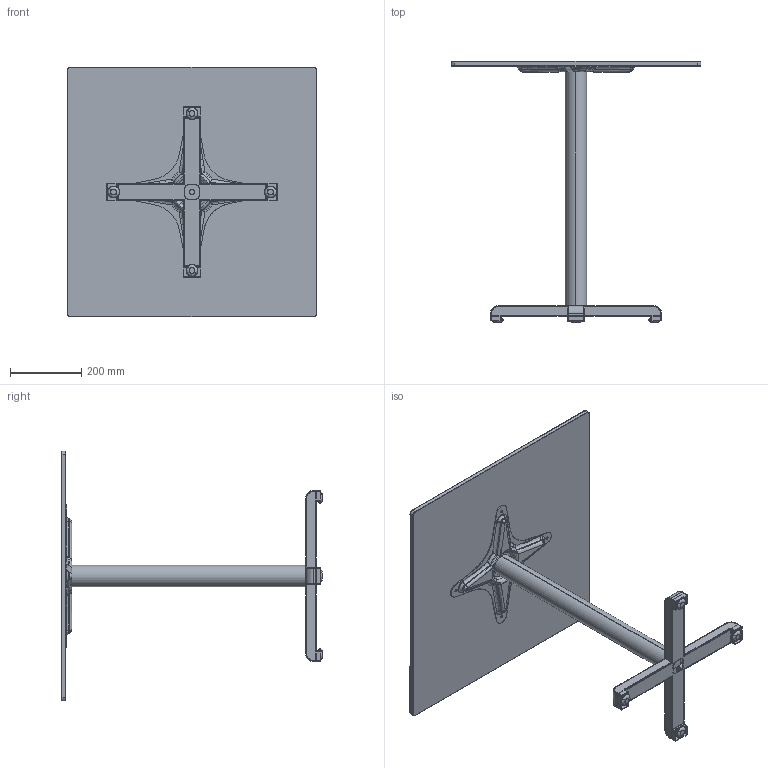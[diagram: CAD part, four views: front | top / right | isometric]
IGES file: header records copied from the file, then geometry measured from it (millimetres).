
Start section: SolidWorks IGES file using analytic representation for surfaces
Global section: file name: C:\Users\Ýbrahim Mert\Desktop\SW çizimler\3D Enjeksiyon Ürünler\masalar\700x700.IGS; native system: SolidWorks 2011; preprocessor: SolidWorks 2011; author: Ýbrahim Mert; date: 150302.235916; units: millimetre
Bounding box: 700 x 731 x 700 mm (x, y, z)
Surface area: 1673156 mm2 (no closed solid volume)
Topology: 0 solids, 0 shells, 480 faces, 5946 edges, 5946 vertices
Faces by surface type: bspline 263, revolution 217
